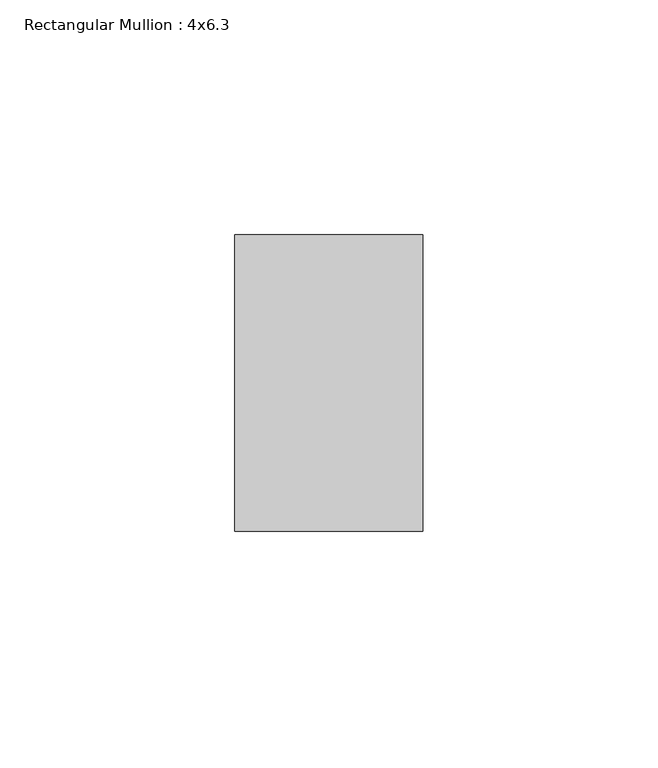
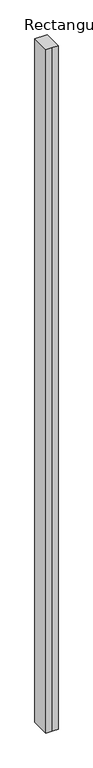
"""IFC4 building model written with IfcOpenShell, lengths in millimetres: member geometry, Rectangular Mullion : 4x6.3."""

from ifc_helpers import new_model, si_unit, frame, origin, place, context, project, spatial, polyline, outline, extrude, source, transform, mapped, element, save


def rectangular_mullion_4x6_3_6d59308b(model_context):
    return source(origin(), model_context, "Body", "SweptSolid", [
        extrude(outline(polyline([(-20.0, 20.0), (-20.0, 83.0), (20.0, 83.0), (20.0, 20.0), (0.0, 20.0), (-20.0, 20.0)])), frame((0.0, 0.0, -2387.3790993), z_axis=(0.0, 0.0, 1.0), x_axis=(1.0, 0.0, 0.0)), (0.0, 0.0, 1.0), 2387.3790993),
    ])


if __name__ == "__main__":
    model = new_model("IFC4")
    model_context = context("Model", 3, world=origin())
    ifc_project = project(units=[si_unit("LENGTHUNIT", "METRE", prefix="MILLI")], contexts=[model_context])
    site = spatial("IfcSite", under=ifc_project)
    building = spatial("IfcBuilding", under=site)
    placement = place(None, origin())
    rectangular_mullion_4x6_3_shape = rectangular_mullion_4x6_3_6d59308b(model_context)
    element("IfcMember", 1, ObjectType="Rectangular Mullion : 4x6.3", at=placement, inside=building, context=model_context, shape_type="MappedRepresentation", body=[
        mapped(rectangular_mullion_4x6_3_shape, transform((0.0, 0.0, 0.0), x_axis=(1.0, 0.0, 0.0), y_axis=(0.0, 1.0, 0.0), z_axis=(0.0, 0.0, 1.0))),
    ])
    save(model, "model.ifc")
